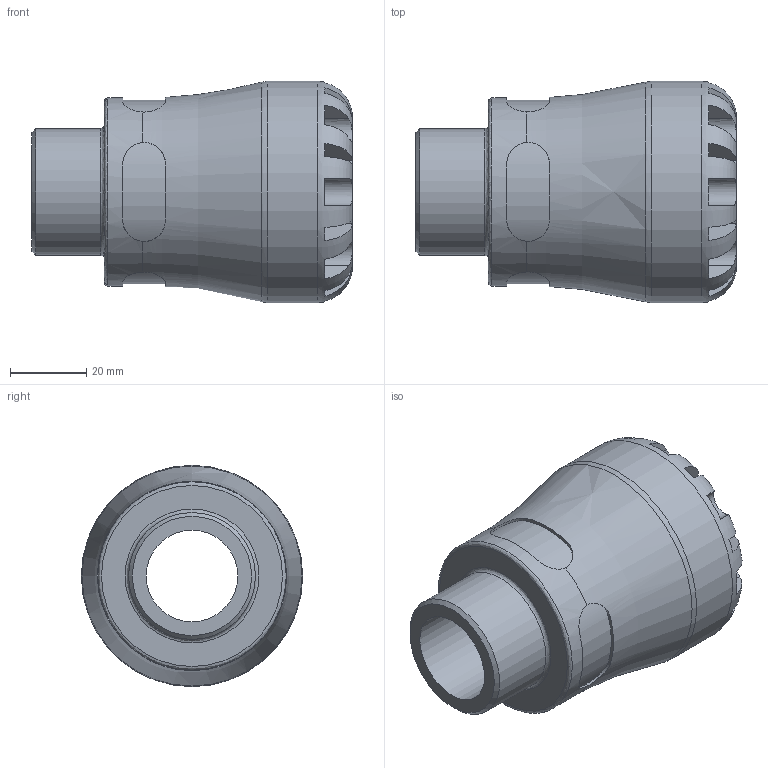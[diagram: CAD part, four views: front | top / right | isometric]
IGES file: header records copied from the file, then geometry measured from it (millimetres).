
Global section: file name: 100200032010_190200032010.ipt; native system: Autodesk Inventor 2015; preprocessor: unknown; author: KIM; date: 20170727.143944; units: millimetre
Bounding box: 84 x 58 x 58 mm (x, y, z)
Volume: 100626 mm3; surface area: 25165.8 mm2
Topology: 1 solids, 1 shells, 100 faces, 268 edges, 172 vertices
Faces by surface type: plane 60, revolution 24, cylinder 15, cone 1
Full cylindrical faces by diameter (mm): 33.249 x1, 49.3 x1, 58 x1
